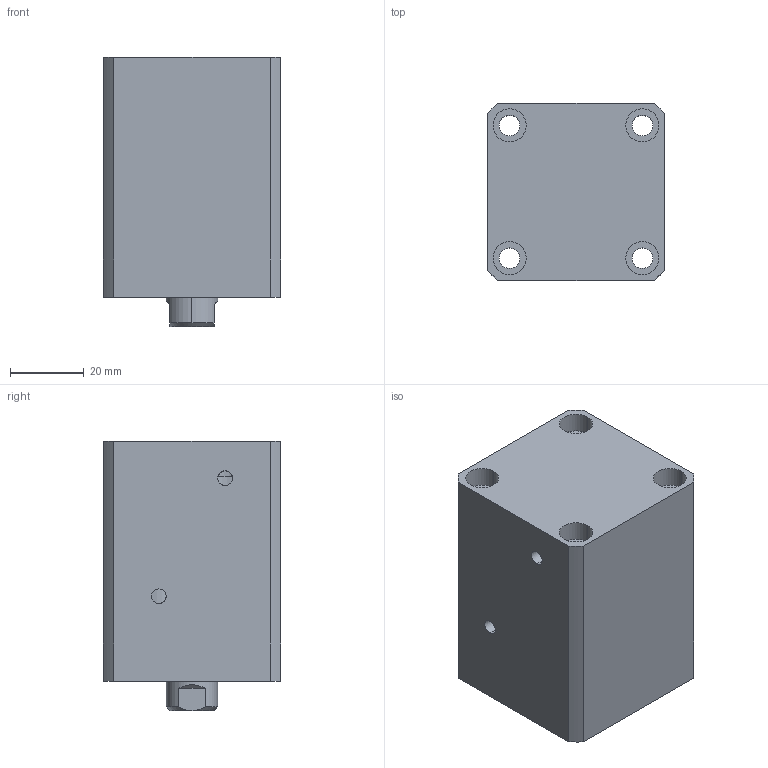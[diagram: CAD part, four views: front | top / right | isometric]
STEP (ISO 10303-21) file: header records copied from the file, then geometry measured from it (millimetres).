
FILE_DESCRIPTION (( 'STEP AP214' ), '1' );
FILE_NAME ('chtb-sdma25x20n_asm.STEP', '2018-05-22T07:02:50', ( 'Windows' ), ( 'Microsoft' ), 'SwSTEP 2.0', 'SolidWorks 2015', '' );
FILE_SCHEMA (( 'AUTOMOTIVE_DESIGN' ));
Length unit declared in the file: millimetre
Products named in the file (4): CHTB-SDMA25X20NHSG; CHTB-SDMA25X20NBT; CHTB-25QG; chtb-sdma25x20n_asm
Assembly tree (3 placements, depth 2):
  chtb-sdma25x20n_asm
    CHTB-25QG
    CHTB-SDMA25X20NBT
    CHTB-SDMA25X20NHSG
Bounding box: 48 x 48 x 73 mm (x, y, z)
Volume: 131758.3 mm3; surface area: 37720 mm2
Topology: 3 solids, 3 shells, 142 faces, 379 edges, 257 vertices
Faces by surface type: cylinder 89, plane 34, bspline 10, cone 9
Entity records: 8020 total; most frequent: CARTESIAN_POINT 4393, ORIENTED_EDGE 746, DIRECTION 661, EDGE_CURVE 373, AXIS2_PLACEMENT_3D 272, VERTEX_POINT 257, EDGE_LOOP 180, ADVANCED_FACE 142
